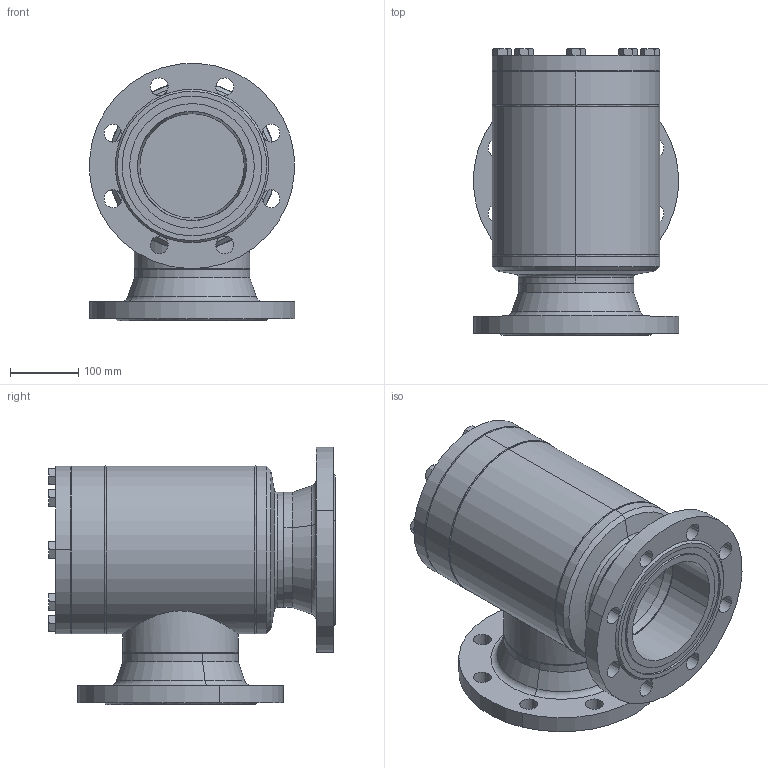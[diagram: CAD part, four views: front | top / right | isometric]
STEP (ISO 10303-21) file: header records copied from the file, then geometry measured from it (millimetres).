
FILE_DESCRIPTION (( 'STEP AP214' ), '1' );
FILE_NAME ('SS52420D21-DN150_DIN-FL-N_PS40.STEP', '2006-05-02T05:56:21', ( 'Herr Grams' ), ( 'AWP GmbH' ), 'SwSTEP 2.0', 'SolidWorks 2002296', '' );
FILE_SCHEMA (( 'AUTOMOTIVE_DESIGN' ));
Length unit declared in the file: millimetre
Products named in the file (14): SS52420D21-DN150_DIN-FL-N_PS40; SS52300E21_Deck+Schr-DN150_Standard; Sechskantschraube-DIN933_M16x 45; Deckel52300E21-DN150_Standard; Gehäuse-kpl16420-DN150_DIN_PS40_Standard; Gehäuse16300-DN150_Standard; Kopfstück16300-DN150_Standard; Flansch-DIN-Nut_PS40_DIN-Flansch-DN150_PS40-Nut; Boden16300-DN150_Standard; Rohrstutzen-A16300-DN150_R1_Standard; bead-DN150-2_Standard; bead-DN150-3_Standard; bead-DN150-4_Standard; bead-DN150-1_Standard
Assembly tree (21 placements, depth 3):
  SS52420D21-DN150_DIN-FL-N_PS40
    SS52300E21_Deck+Schr-DN150_Standard
      Sechskantschraube-DIN933_M16x 45  x8
      Deckel52300E21-DN150_Standard
    Gehäuse-kpl16420-DN150_DIN_PS40_Standard
      Gehäuse16300-DN150_Standard
      Boden16300-DN150_Standard
      bead-DN150-2_Standard
      Rohrstutzen-A16300-DN150_R1_Standard
      Flansch-DIN-Nut_PS40_DIN-Flansch-DN150_PS40-Nut  x2
      bead-DN150-1_Standard
      Kopfstück16300-DN150_Standard
      bead-DN150-3_Standard
      bead-DN150-4_Standard
Bounding box: 299.71 x 418.5 x 375.86 mm (x, y, z)
Volume: 7772618.2 mm3; surface area: 1227744.1 mm2
Topology: 19 solids, 19 shells, 367 faces, 828 edges, 500 vertices
Faces by surface type: cone 128, cylinder 113, plane 104, bspline 16, torus 6
Entity records: 7828 total; most frequent: CARTESIAN_POINT 3472, DIRECTION 786, ORIENTED_EDGE 720, EDGE_CURVE 360, AXIS2_PLACEMENT_3D 346, VERTEX_POINT 226, EDGE_LOOP 204, CIRCLE 182
